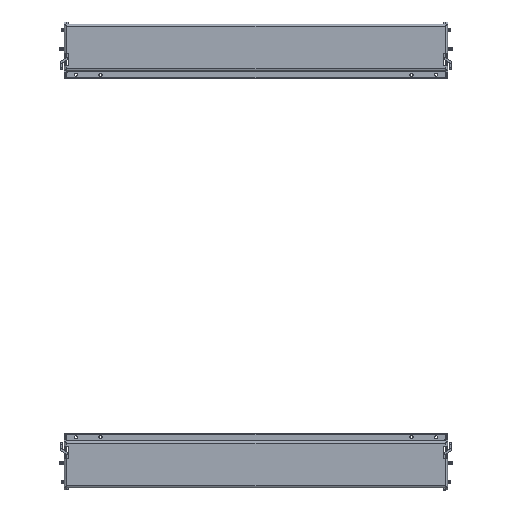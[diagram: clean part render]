
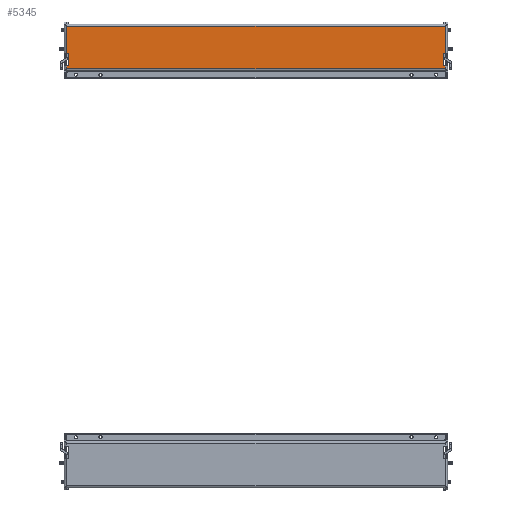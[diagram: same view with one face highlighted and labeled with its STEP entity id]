
A CAD part, front view. The second image highlights one B-rep face of the part: STEP entity #5345.
In plain terms, the highlighted planar face has unit normal (0, -1, 0).
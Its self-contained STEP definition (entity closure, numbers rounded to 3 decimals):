
#3733=DIRECTION('',(0.,0.,-1.));
#3734=VECTOR('',#3733,38.19);
#3735=CARTESIAN_POINT('',(-268.57,-0.12,3.12));
#3736=LINE('',#3735,#3734);
#3741=DIRECTION('',(-1.,0.,0.));
#3742=VECTOR('',#3741,2.95);
#3743=CARTESIAN_POINT('',(-265.62,-0.12,20.88));
#3744=LINE('',#3743,#3742);
#3745=DIRECTION('',(0.,0.,-1.));
#3746=VECTOR('',#3745,17.76);
#3747=CARTESIAN_POINT('',(265.62,-0.12,20.88));
#3748=LINE('',#3747,#3746);
#3749=DIRECTION('',(1.,0.,0.));
#3750=VECTOR('',#3749,2.95);
#3751=CARTESIAN_POINT('',(265.62,-0.12,3.12));
#3752=LINE('',#3751,#3750);
#3771=DIRECTION('',(1.,0.,0.));
#3772=VECTOR('',#3771,537.14);
#3773=CARTESIAN_POINT('',(-268.57,-0.12,-35.07));
#3774=LINE('',#3773,#3772);
#4247=DIRECTION('',(0.,0.,-1.));
#4248=VECTOR('',#4247,4.19);
#4249=CARTESIAN_POINT('',(-268.57,-0.12,25.07));
#4250=LINE('',#4249,#4248);
#4279=DIRECTION('',(-1.,0.,0.));
#4280=VECTOR('',#4279,537.14);
#4281=CARTESIAN_POINT('',(268.57,-0.12,25.07));
#4282=LINE('',#4281,#4280);
#4443=DIRECTION('',(0.,0.,1.));
#4444=VECTOR('',#4443,4.19);
#4445=CARTESIAN_POINT('',(268.57,-0.12,20.88));
#4446=LINE('',#4445,#4444);
#4517=DIRECTION('',(0.,0.,1.));
#4518=VECTOR('',#4517,38.19);
#4519=CARTESIAN_POINT('',(268.57,-0.12,-35.07));
#4520=LINE('',#4519,#4518);
#4537=DIRECTION('',(1.,0.,0.));
#4538=VECTOR('',#4537,2.95);
#4539=CARTESIAN_POINT('',(265.62,-0.12,20.88));
#4540=LINE('',#4539,#4538);
#4683=DIRECTION('',(0.,0.,-1.));
#4684=VECTOR('',#4683,17.76);
#4685=CARTESIAN_POINT('',(-265.62,-0.12,20.88));
#4686=LINE('',#4685,#4684);
#4691=DIRECTION('',(-1.,0.,0.));
#4692=VECTOR('',#4691,2.95);
#4693=CARTESIAN_POINT('',(-265.62,-0.12,3.12));
#4694=LINE('',#4693,#4692);
#4934=CARTESIAN_POINT('',(-268.57,-0.12,3.12));
#4935=CARTESIAN_POINT('',(-268.57,-0.12,-35.07));
#4936=VERTEX_POINT('',#4934);
#4937=VERTEX_POINT('',#4935);
#4938=CARTESIAN_POINT('',(268.57,-0.12,-35.07));
#4939=VERTEX_POINT('',#4938);
#4940=CARTESIAN_POINT('',(-265.62,-0.12,3.12));
#4941=VERTEX_POINT('',#4940);
#4942=CARTESIAN_POINT('',(-265.62,-0.12,20.88));
#4943=VERTEX_POINT('',#4942);
#4944=CARTESIAN_POINT('',(-268.57,-0.12,20.88));
#4945=VERTEX_POINT('',#4944);
#4946=CARTESIAN_POINT('',(-268.57,-0.12,25.07));
#4947=VERTEX_POINT('',#4946);
#4948=CARTESIAN_POINT('',(268.57,-0.12,25.07));
#4949=VERTEX_POINT('',#4948);
#4950=CARTESIAN_POINT('',(268.57,-0.12,20.88));
#4951=VERTEX_POINT('',#4950);
#4952=CARTESIAN_POINT('',(265.62,-0.12,20.88));
#4953=VERTEX_POINT('',#4952);
#4954=CARTESIAN_POINT('',(265.62,-0.12,3.12));
#4955=VERTEX_POINT('',#4954);
#4956=CARTESIAN_POINT('',(268.57,-0.12,3.12));
#4957=VERTEX_POINT('',#4956);
#5315=CARTESIAN_POINT('',(-268.57,-0.12,-38.));
#5316=DIRECTION('',(0.,-1.,0.));
#5317=DIRECTION('',(1.,0.,0.));
#5318=AXIS2_PLACEMENT_3D('',#5315,#5316,#5317);
#5319=PLANE('',#5318);
#5321=ORIENTED_EDGE('',*,*,#5320,.F.);
#5322=ORIENTED_EDGE('',*,*,#5305,.F.);
#5324=ORIENTED_EDGE('',*,*,#5323,.F.);
#5326=ORIENTED_EDGE('',*,*,#5325,.F.);
#5328=ORIENTED_EDGE('',*,*,#5327,.T.);
#5330=ORIENTED_EDGE('',*,*,#5329,.F.);
#5332=ORIENTED_EDGE('',*,*,#5331,.F.);
#5334=ORIENTED_EDGE('',*,*,#5333,.F.);
#5336=ORIENTED_EDGE('',*,*,#5335,.F.);
#5338=ORIENTED_EDGE('',*,*,#5337,.T.);
#5340=ORIENTED_EDGE('',*,*,#5339,.T.);
#5342=ORIENTED_EDGE('',*,*,#5341,.F.);
#5343=EDGE_LOOP('',(#5321,#5322,#5324,#5326,#5328,#5330,#5332,#5334,#5336,#5338,
#5340,#5342));
#5344=FACE_OUTER_BOUND('',#5343,.F.);
#5305=EDGE_CURVE('',#4936,#4937,#3736,.T.);
#5320=EDGE_CURVE('',#4937,#4939,#3774,.T.);
#5323=EDGE_CURVE('',#4941,#4936,#4694,.T.);
#5325=EDGE_CURVE('',#4943,#4941,#4686,.T.);
#5327=EDGE_CURVE('',#4943,#4945,#3744,.T.);
#5329=EDGE_CURVE('',#4947,#4945,#4250,.T.);
#5331=EDGE_CURVE('',#4949,#4947,#4282,.T.);
#5333=EDGE_CURVE('',#4951,#4949,#4446,.T.);
#5335=EDGE_CURVE('',#4953,#4951,#4540,.T.);
#5337=EDGE_CURVE('',#4953,#4955,#3748,.T.);
#5339=EDGE_CURVE('',#4955,#4957,#3752,.T.);
#5341=EDGE_CURVE('',#4939,#4957,#4520,.T.);
#5345=ADVANCED_FACE('',(#5344),#5319,.T.);
